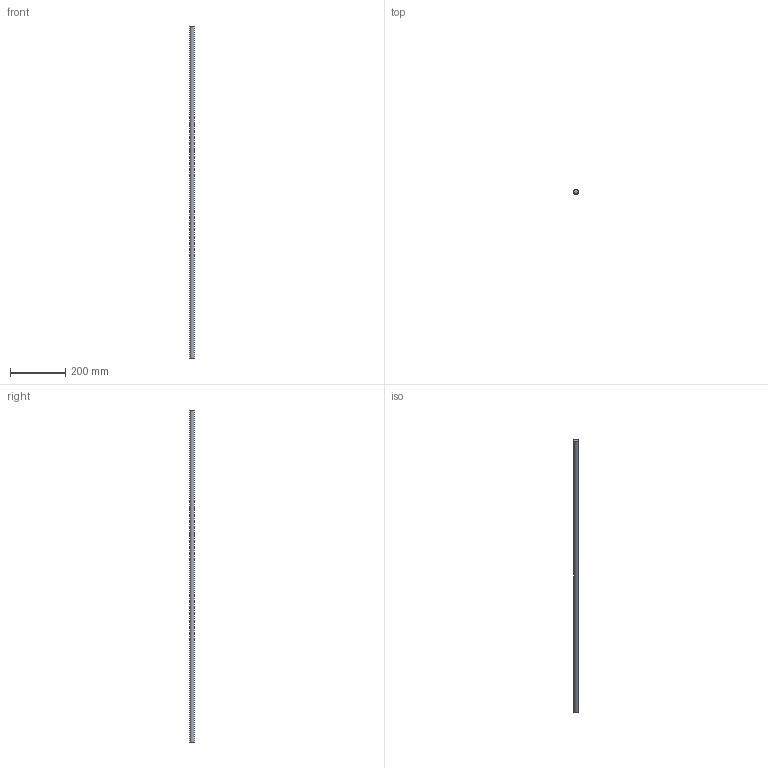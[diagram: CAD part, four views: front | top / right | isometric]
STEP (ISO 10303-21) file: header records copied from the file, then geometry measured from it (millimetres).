
FILE_DESCRIPTION(/* description */ (''),/* implementation_level */ '2;1');
FILE_NAME(/* name */ 'C:\Users\David\Desktop\stepFiles\Profilfuehrung\WF16x1200.stp',/* time_stamp */ '2018-06-24T15:46:55+02:00',/* author */ ('David'),/* organization */ (''),/* preprocessor_version */ 'ST-DEVELOPER v17',/* originating_system */ 'Autodesk Inventor 2019',/* authorisation */ '');
FILE_SCHEMA (('AUTOMOTIVE_DESIGN { 1 0 10303 214 3 1 1 }'));
Length unit declared in the file: millimetre
Products named in the file (1): Wellenfuehrung
Bounding box: 16 x 16 x 1200 mm (x, y, z)
Volume: 241274.3 mm3; surface area: 60720.7 mm2
Topology: 1 solids, 1 shells, 3 faces, 3 edges, 2 vertices
Faces by surface type: plane 2, cylinder 1
Full cylindrical faces by diameter (mm): 16 x1
Entity records: 98 total; most frequent: DIRECTION 13, CARTESIAN_POINT 9, ORIENTED_EDGE 6, AXIS2_PLACEMENT_3D 6, FACE_OUTER_BOUND 3, EDGE_LOOP 3, EDGE_CURVE 3, ADVANCED_FACE 3
